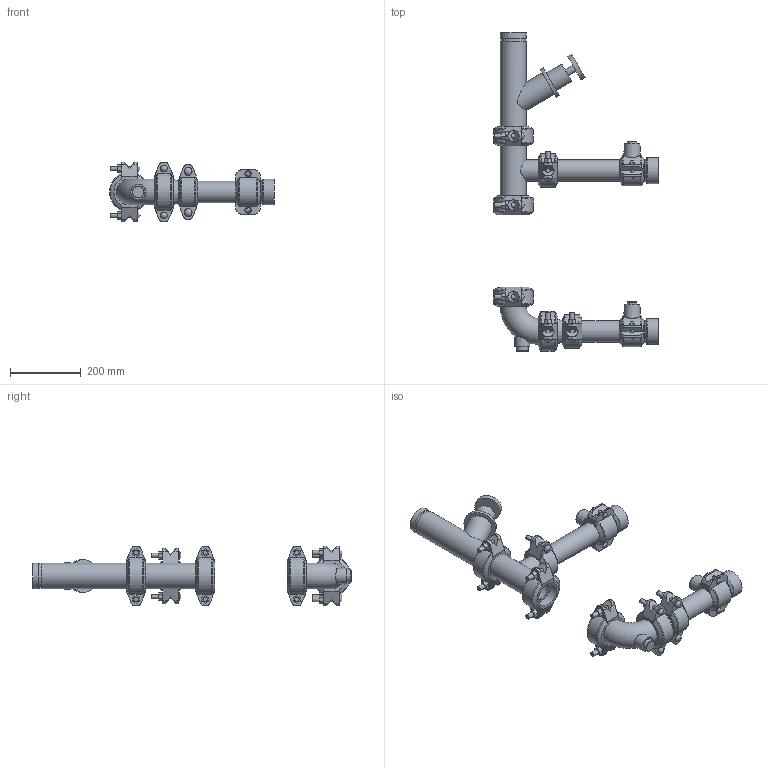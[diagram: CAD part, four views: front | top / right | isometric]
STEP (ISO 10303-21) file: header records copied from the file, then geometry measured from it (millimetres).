
FILE_DESCRIPTION(/* description */ ('VIC RVI DOUBLE COIL AHU DROP LOW PROFILE SERIES 385J (OGSxFPT)','CAx-IF Rec.Pracs.---Representation and Presentation of Product Manufacturing Information (PMI)---4.0---2014-10-13'),/* implementation_level */ '2;1');
FILE_NAME(/* name */ 'C:\Users\kkamble\AppData\Roaming\Autodesk\ApplicationPlugins\Victaulic.Temp\A836\Victaulic_IPS_RVI_Double Coil_Low Profile_Series 385J (OGSxFPT)_02.5x02.0 (65x50).stp',/* time_stamp */ '2021-03-17T12:26:08+06:00',/* author */ ('Vjadhav'),/* organization */ ('Victaulic'),/* preprocessor_version */ 'ST-DEVELOPER v17.2',/* originating_system */ 'Autodesk Inventor 2019',/* authorisation */ '');
FILE_SCHEMA (('AP242_MANAGED_MODEL_BASED_3D_ENGINEERING_MIM_LF { 1 0 10303 442 1 1 4 }'));
Length unit declared in the file: inch
Products named in the file (11): 385J-02.5x02.0; Pipe-02.0; 050-02.5x02.0; 10-DR-02.5; 025-02.5x02.0; 177N-02.5; 177N-02.0; Pipe_(8 3/4")-02.0; 072-02.0x0.75; 080-02.0; 789-02.5
Assembly tree (16 placements, depth 2):
  385J-02.5x02.0
    080-02.0  x2
    072-02.0x0.75  x2
    Pipe-02.0
    177N-02.0  x2
    050-02.5x02.0
    177N-02.5  x4
    10-DR-02.5
    025-02.5x02.0
    Pipe_(8 3/4")-02.0
    789-02.5
Bounding box: 465.33 x 898.91 x 168.94 mm (x, y, z)
Volume: 4571039 mm3; surface area: 1042140.2 mm2
Topology: 16 solids, 16 shells, 869 faces, 2376 edges, 1590 vertices
Faces by surface type: plane 490, cylinder 273, torus 43, cone 38, bspline 13, sphere 12
Full cylindrical faces by diameter (mm): 7.62 x8, 11.43 x4, 12.7 x12, 17.78 x4, 19.05 x9, 20.93 x2, 22.225 x4, 26.67 x2, 26.987 x1, 33.401 x1, 43.18 x1, 47.625 x2, 52.502 x6, 57.15 x9, 58.42 x2, 60.325 x26, 62.713 x3, 69.088 x7, 69.85 x1, 73.025 x20, 76.2 x1, 92.05 x1
Entity records: 14662 total; most frequent: CARTESIAN_POINT 3236, DIRECTION 2344, ORIENTED_EDGE 2158, EDGE_CURVE 1079, AXIS2_PLACEMENT_3D 922, VERTEX_POINT 736, LINE 500, VECTOR 500
